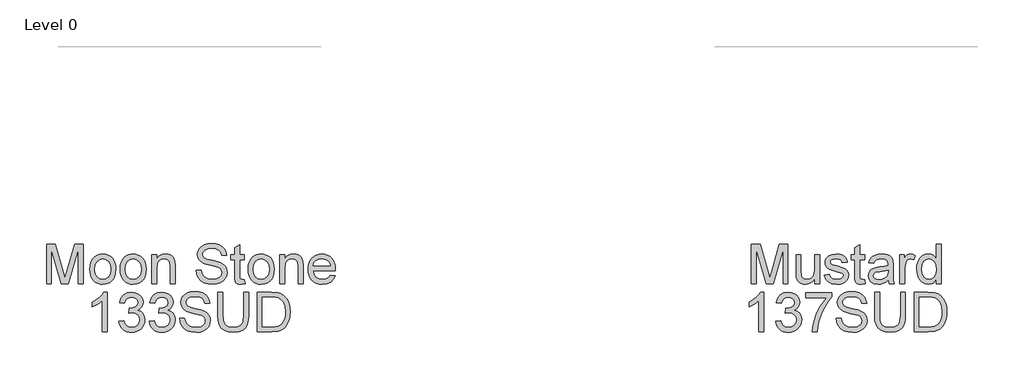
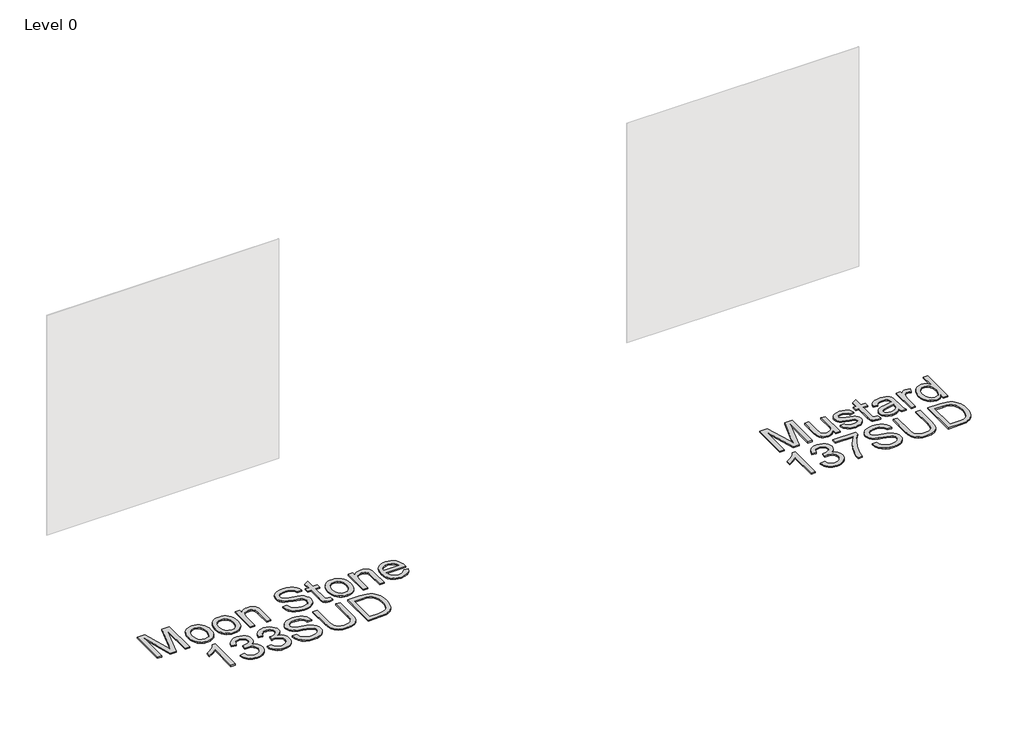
# One storey, part 10 of 37: 2 proxies.
"""IFC4 building model written with IfcOpenShell, lengths in millimetres."""

from ifc_helpers import new_model, si_unit, origin, origin_with_axes, place, context, project, spatial, polyline, outline, extrude, element, save

model = new_model("IFC4")

# Units and contexts
model_context = context("Model", 3, world=origin())
ifc_project = project(units=[si_unit("LENGTHUNIT", "METRE", prefix="MILLI")], contexts=[model_context])

# Site, building, storey
site = spatial("IfcSite", under=ifc_project)
building = spatial("IfcBuilding", under=site)
storey = spatial("IfcBuildingStorey", under=building, Name="Level 0", Elevation=0.0)

# Proxies
placement = place(None, origin())
element("IfcBuildingElementProxy", 1, Name="300mm Arial", ObjectType="300mm Arial", at=placement, inside=storey, context=model_context, shape_type="SweptSolid", body=[
    extrude(outline(polyline([(-10538.4115396, -12002.860494), (-10538.4115396, -11701.4915635), (-10473.5907321, -11701.4915635), (-10411.9337097, -11913.9066275), (-10399.4992983, -11958.2731962), (-10386.0348172, -11910.2278076), (-10325.4078644, -11701.4915635), (-10260.5870569, -11701.4915635), (-10260.5870569, -12002.860494), (-10298.2581732, -12002.860494), (-10298.2581732, -11739.1626798), (-10373.9682878, -12002.860494), (-10425.0303087, -12002.860494), (-10500.7404233, -11739.1626798), (-10500.7404233, -12002.860494), (-10538.4115396, -12002.860494)])), origin_with_axes(), (0.0, 0.0, 1.0), 10.0),
    extrude(outline(polyline([(-10208.789272, -11892.2015898), (-10206.7521254, -11863.5389839), (-10200.6406858, -11838.8403064), (-10190.454953, -11818.1055575), (-10176.1949272, -11801.334737), (-10161.8383323, -11790.6155754), (-10145.9918154, -11782.9590314), (-10128.6553764, -11778.3651049), (-10109.8290153, -11776.8337961), (-10089.0459818, -11778.698498), (-10070.2541096, -11784.2926036), (-10053.4533988, -11793.6161129), (-10038.6438492, -11806.669026), (-10026.5566264, -11823.0098843), (-10017.9228958, -11842.1972296), (-10012.7426575, -11864.2310619), (-10011.0159114, -11889.1113811), (-10014.0693319, -11927.1687735), (-10023.2295936, -11956.1394806), (-10038.229982, -11977.8353213), (-10058.8037825, -11994.0681143), (-10083.2403441, -12004.1940662), (-10109.8290153, -12007.5693835), (-10130.9155514, -12005.7115794), (-10149.8821675, -12000.1381672), (-10166.7288636, -11990.8491468), (-10181.4556397, -11977.8445183), (-10193.4141038, -11961.3450108), (-10201.9558639, -11941.5713536), (-10207.08092, -11918.5235466), (-10208.789272, -11892.2015898)]), holes=[polyline([(-10171.1181557, -11892.1280134), (-10166.758754, -11926.2214773), (-10153.6805491, -11950.5108861), (-10133.9988623, -11965.0514219), (-10109.8290153, -11969.8982672), (-10085.7695328, -11965.0238308), (-10066.1246342, -11950.4005215), (-10053.0464293, -11925.789216), (-10048.6870277, -11890.950791), (-10053.0740205, -11857.8506085), (-10066.2349988, -11833.8922936), (-10085.9074885, -11819.3517577), (-10109.8290153, -11814.5049125), (-10133.9988623, -11819.3333636), (-10153.6805491, -11833.8187172), (-10166.758754, -11858.0529436), (-10171.1181557, -11892.1280134)])]), origin_with_axes(), (0.0, 0.0, 1.0), 10.0),
    extrude(outline(polyline([(-9978.0536846, -11892.2015898), (-9976.016538, -11863.5389839), (-9969.9050984, -11838.8403064), (-9959.7193657, -11818.1055575), (-9945.4593398, -11801.334737), (-9931.102745, -11790.6155754), (-9915.256228, -11782.9590314), (-9897.919789, -11778.3651049), (-9879.0934279, -11776.8337961), (-9858.3103944, -11778.698498), (-9839.5185223, -11784.2926036), (-9822.7178114, -11793.6161129), (-9807.9082618, -11806.669026), (-9795.821039, -11823.0098843), (-9787.1873084, -11842.1972296), (-9782.0070701, -11864.2310619), (-9780.280324, -11889.1113811), (-9783.3337445, -11927.1687735), (-9792.4940062, -11956.1394806), (-9807.4943946, -11977.8353213), (-9828.0681952, -11994.0681143), (-9852.5047567, -12004.1940662), (-9879.0934279, -12007.5693835), (-9900.179964, -12005.7115794), (-9919.1465801, -12000.1381672), (-9935.9932762, -11990.8491468), (-9950.7200524, -11977.8445183), (-9962.6785165, -11961.3450108), (-9971.2202765, -11941.5713536), (-9976.3453326, -11918.5235466), (-9978.0536846, -11892.2015898)]), holes=[polyline([(-9940.3825683, -11892.1280134), (-9936.0231666, -11926.2214773), (-9922.9449617, -11950.5108861), (-9903.263275, -11965.0514219), (-9879.0934279, -11969.8982672), (-9855.0339454, -11965.0238308), (-9835.3890469, -11950.4005215), (-9822.3108419, -11925.789216), (-9817.9514403, -11890.950791), (-9822.3384331, -11857.8506085), (-9835.4994115, -11833.8922936), (-9855.1719012, -11819.3517577), (-9879.0934279, -11814.5049125), (-9903.263275, -11819.3333636), (-9922.9449617, -11833.8187172), (-9936.0231666, -11858.0529436), (-9940.3825683, -11892.1280134)])]), origin_with_axes(), (0.0, 0.0, 1.0), 10.0),
    extrude(outline(polyline([(-9737.9003181, -12002.860494), (-9737.9003181, -11781.5426857), (-9700.2292018, -11781.5426857), (-9700.2292018, -11812.4447733), (-9687.1417999, -11796.8649708), (-9671.4240416, -11785.7365404), (-9653.0759271, -11779.0594822), (-9632.0974563, -11776.8337961), (-9613.5286126, -11778.6272209), (-9596.5232674, -11784.0074951), (-9582.3414165, -11792.303234), (-9572.2430557, -11802.8430532), (-9560.9490785, -11830.5445674), (-9558.9625157, -11866.964885), (-9558.9625157, -12002.860494), (-9596.633632, -12002.860494), (-9596.633632, -11872.0416565), (-9600.9746395, -11838.7115477), (-9606.9803131, -11828.7879309), (-9616.3153187, -11821.0900002), (-9628.2806806, -11816.1511844), (-9642.177423, -11814.5049125), (-9664.2411457, -11818.2021265), (-9683.0491127, -11829.2937687), (-9690.5654017, -11838.3482643), (-9695.9341795, -11850.7228949), (-9700.2292018, -11885.4325611), (-9700.2292018, -12002.860494), (-9737.9003181, -12002.860494)])), origin_with_axes(), (0.0, 0.0, 1.0), 10.0),
    extrude(outline(polyline([(-9398.8602714, -11899.2649241), (-9361.1891551, -11899.2649241), (-9356.8665416, -11920.1698185), (-9349.0490492, -11936.9728286), (-9336.8537611, -11950.308551), (-9319.3977604, -11960.8115819), (-9298.0606047, -11967.6265959), (-9274.2218514, -11969.8982672), (-9253.2341836, -11968.1784189), (-9234.8584779, -11963.0188739), (-9219.9684542, -11954.8518936), (-9209.4378321, -11944.1097394), (-9203.1746411, -11931.7764955), (-9201.0869108, -11918.8362463), (-9202.6504093, -11906.2270909), (-9207.3409047, -11895.3285868), (-9216.8690484, -11886.0303694), (-9232.9454916, -11878.222074), (-9287.796697, -11863.837888), (-9323.8031473, -11854.3189414), (-9346.8417573, -11845.2598472), (-9365.594542, -11832.5863125), (-9378.884279, -11817.2272392), (-9386.802939, -11799.5137211), (-9389.4424923, -11779.7768521), (-9386.1775396, -11757.7131294), (-9376.3826815, -11737.1393289), (-9360.3154353, -11719.7017223), (-9338.2333186, -11707.0465817), (-9311.7274208, -11699.3486509), (-9282.3888317, -11696.782674), (-9250.6038273, -11699.4682126), (-9222.7919485, -11707.5248283), (-9199.9464766, -11720.7869742), (-9183.060693, -11739.0891034), (-9172.3737211, -11761.2907818), (-9168.124684, -11786.2515752), (-9205.7958003, -11786.2515752), (-9212.7119818, -11763.7739853), (-9227.132956, -11747.5503893), (-9249.6657282, -11737.7279401), (-9280.9173037, -11734.4537903), (-9312.9046432, -11737.6911519), (-9334.8488042, -11747.4032365), (-9347.5407331, -11761.695452), (-9351.771376, -11778.6732061), (-9348.7731377, -11793.1493626), (-9339.778423, -11804.7928278), (-9318.5148436, -11815.2038882), (-9278.2685534, -11825.8356779), (-9236.7346761, -11835.9340387), (-9211.6083358, -11844.7448125), (-9190.1332244, -11858.4116286), (-9175.1512301, -11875.2790181), (-9166.3496534, -11895.1630399), (-9163.4157945, -11917.8797531), (-9166.7911118, -11941.102304), (-9176.9170637, -11962.9452975), (-9193.379783, -11981.7440675), (-9215.7654024, -11995.8339479), (-9242.6851674, -12004.6355246), (-9272.7503234, -12007.5693835), (-9309.6580846, -12004.4055984), (-9340.0359404, -11994.9142429), (-9364.2333786, -11979.0585289), (-9382.5998872, -11956.8016682), (-9394.3905051, -11929.6887651), (-9398.8602714, -11899.2649241)])), origin_with_axes(), (0.0, 0.0, 1.0), 10.0),
    extrude(outline(polyline([(-9031.5668874, -11971.4433716), (-9026.8579979, -12003.96414), (-9055.0377587, -12007.5693835), (-9073.1191588, -12006.005885), (-9086.6020339, -12001.3153896), (-9096.1301776, -11994.0865084), (-9102.3473833, -11984.9078526), (-9105.7686858, -11969.1441091), (-9106.90912, -11942.1599648), (-9106.90912, -11819.213802), (-9135.1624572, -11819.213802), (-9135.1624572, -11781.5426857), (-9106.90912, -11781.5426857), (-9106.90912, -11727.758338), (-9069.2380037, -11705.6118419), (-9069.2380037, -11781.5426857), (-9031.5668874, -11781.5426857), (-9031.5668874, -11819.213802), (-9069.2380037, -11819.213802), (-9069.2380037, -11941.0563188), (-9067.2514409, -11960.4804881), (-9060.813506, -11967.3598814), (-9047.9744244, -11969.8982672), (-9031.5668874, -11971.4433716)])), origin_with_axes(), (0.0, 0.0, 1.0), 10.0),
    extrude(outline(polyline([(-9003.3135502, -11892.2015898), (-9001.2764036, -11863.5389839), (-8995.164964, -11838.8403064), (-8984.9792312, -11818.1055575), (-8970.7192054, -11801.334737), (-8956.3626105, -11790.6155754), (-8940.5160936, -11782.9590314), (-8923.1796546, -11778.3651049), (-8904.3532935, -11776.8337961), (-8883.57026, -11778.698498), (-8864.7783878, -11784.2926036), (-8847.977677, -11793.6161129), (-8833.1681274, -11806.669026), (-8821.0809046, -11823.0098843), (-8812.447174, -11842.1972296), (-8807.2669357, -11864.2310619), (-8805.5401896, -11889.1113811), (-8808.5936101, -11927.1687735), (-8817.7538718, -11956.1394806), (-8832.7542602, -11977.8353213), (-8853.3280607, -11994.0681143), (-8877.7646223, -12004.1940662), (-8904.3532935, -12007.5693835), (-8925.4398296, -12005.7115794), (-8944.4064457, -12000.1381672), (-8961.2531418, -11990.8491468), (-8975.9799179, -11977.8445183), (-8987.938382, -11961.3450108), (-8996.4801421, -11941.5713536), (-9001.6051982, -11918.5235466), (-9003.3135502, -11892.2015898)]), holes=[polyline([(-8965.6424339, -11892.1280134), (-8961.2830322, -11926.2214773), (-8948.2048273, -11950.5108861), (-8928.5231406, -11965.0514219), (-8904.3532935, -11969.8982672), (-8880.293811, -11965.0238308), (-8860.6489124, -11950.4005215), (-8847.5707075, -11925.789216), (-8843.2113059, -11890.950791), (-8847.5982987, -11857.8506085), (-8860.759277, -11833.8922936), (-8880.4317667, -11819.3517577), (-8904.3532935, -11814.5049125), (-8928.5231406, -11819.3333636), (-8948.2048273, -11833.8187172), (-8961.2830322, -11858.0529436), (-8965.6424339, -11892.1280134)])]), origin_with_axes(), (0.0, 0.0, 1.0), 10.0),
    extrude(outline(polyline([(-8763.1601837, -12002.860494), (-8763.1601837, -11781.5426857), (-8725.4890674, -11781.5426857), (-8725.4890674, -11812.4447733), (-8712.4016654, -11796.8649708), (-8696.6839072, -11785.7365404), (-8678.3357927, -11779.0594822), (-8657.3573219, -11776.8337961), (-8638.7884782, -11778.6272209), (-8621.783133, -11784.0074951), (-8607.6012821, -11792.303234), (-8597.5029213, -11802.8430532), (-8586.208944, -11830.5445674), (-8584.2223813, -11866.964885), (-8584.2223813, -12002.860494), (-8621.8934976, -12002.860494), (-8621.8934976, -11872.0416565), (-8626.2345051, -11838.7115477), (-8632.2401787, -11828.7879309), (-8641.5751843, -11821.0900002), (-8653.5405462, -11816.1511844), (-8667.4372886, -11814.5049125), (-8689.5010112, -11818.2021265), (-8708.3089782, -11829.2937687), (-8715.8252673, -11838.3482643), (-8721.1940451, -11850.7228949), (-8725.4890674, -11885.4325611), (-8725.4890674, -12002.860494), (-8763.1601837, -12002.860494)])), origin_with_axes(), (0.0, 0.0, 1.0), 10.0),
    extrude(outline(polyline([(-8377.4727, -11936.9360404), (-8340.5373477, -11941.64493), (-8353.8454788, -11969.4752029), (-8375.081467, -11990.2789297), (-8403.7670656, -12003.2467701), (-8439.424028, -12007.5693835), (-8462.7983302, -12005.7046817), (-8483.6250497, -12000.1105761), (-8501.9041863, -11990.7870668), (-8517.6357401, -11977.7341537), (-8530.2862822, -11961.3151204), (-8539.3223838, -11941.8932503), (-8544.7440447, -11919.4685435), (-8546.551265, -11894.0409998), (-8544.7256506, -11867.7512327), (-8539.2488074, -11844.5792656), (-8530.1207354, -11824.5250983), (-8517.3414345, -11807.5887309), (-8501.6512674, -11794.133447), (-8483.7905966, -11784.5225298), (-8463.7594219, -11778.7559796), (-8441.5577435, -11776.8337961), (-8420.0711358, -11778.751381), (-8400.6400686, -11784.5041357), (-8383.2645421, -11794.0920602), (-8367.9445563, -11807.5151545), (-8355.4388677, -11824.4147337), (-8346.506233, -11844.4321128), (-8341.1466522, -11867.5672917), (-8339.3601253, -11893.8202706), (-8339.5808545, -11903.9738137), (-8508.8801487, -11903.9738137), (-8502.3594403, -11932.1719686), (-8487.2118991, -11952.902119), (-8465.3505116, -11965.6492302), (-8438.688264, -11969.8982672), (-8418.6386952, -11967.9300985), (-8401.7529117, -11962.0255925), (-8388.0309132, -11951.8168672), (-8377.4727, -11936.9360404)]), holes=[polyline([(-8508.8801487, -11866.3026974), (-8377.0312416, -11866.3026974), (-8382.1264072, -11846.4002814), (-8392.1144034, -11832.1632482), (-8414.0769585, -11818.9194964), (-8441.7048963, -11814.5049125), (-8467.0979511, -11818.0273826), (-8488.0948159, -11828.5947929), (-8502.6905341, -11845.0667092), (-8508.8801487, -11866.3026974)])]), origin_with_axes(), (0.0, 0.0, 1.0), 10.0),
    extrude(outline(polyline([(-10076.9403649, -12368.7849475), (-10114.6114812, -12368.7849475), (-10114.6114812, -12133.9290818), (-10150.2960347, -12159.3497277), (-10189.9537138, -12178.3692268), (-10189.9537138, -12142.7582497), (-10160.3668044, -12126.6634124), (-10134.7346263, -12107.5151545), (-10114.5287078, -12087.1528861), (-10101.2205766, -12067.4160171), (-10076.9403649, -12067.4160171), (-10076.9403649, -12368.7849475)])), origin_with_axes(), (0.0, 0.0, 1.0), 10.0),
    extrude(outline(polyline([(-9987.4714637, -12288.7338254), (-9949.8003474, -12284.0249358), (-9941.3666526, -12307.6981422), (-9929.0150146, -12323.6826149), (-9912.1384281, -12332.7876943), (-9890.1298877, -12335.8227207), (-9864.3045717, -12331.6472601), (-9844.3653675, -12319.1208782), (-9831.6182564, -12300.4324728), (-9827.3692194, -12277.7709419), (-9831.5814682, -12256.2590422), (-9844.2182147, -12238.8122386), (-9863.3480785, -12227.2515469), (-9887.039679, -12223.397983), (-9913.4536062, -12227.5182614), (-9909.2597515, -12189.8471451), (-9903.2264868, -12190.2886035), (-9880.6569264, -12187.5846708), (-9860.4785989, -12179.4728728), (-9846.2415657, -12165.7508744), (-9841.495888, -12146.2163404), (-9844.9355846, -12129.9467592), (-9855.2546746, -12116.7489926), (-9871.000024, -12108.0025982), (-9890.7184989, -12105.0871334), (-9910.4737621, -12108.0301893), (-9926.6237817, -12116.8593572), (-9938.4143996, -12131.574637), (-9945.0914578, -12152.1760288), (-9982.7625741, -12147.4671392), (-9971.670932, -12113.6403898), (-9951.9340629, -12088.3852908), (-9924.9315245, -12072.6583355), (-9892.0428741, -12067.4160171), (-9868.3604707, -12070.0003881), (-9846.6094477, -12077.7535011), (-9828.2705303, -12089.9855775), (-9814.8244433, -12106.0068384), (-9806.5746896, -12124.4653175), (-9803.8247717, -12144.0090485), (-9806.4367338, -12162.2192072), (-9814.2726203, -12178.7371088), (-9827.2220666, -12192.8085951), (-9845.1747079, -12203.6795081), (-9821.593472, -12213.2076518), (-9804.1190773, -12229.4312477), (-9793.3033466, -12251.4673793), (-9789.6981031, -12278.4331295), (-9791.5007248, -12297.5445992), (-9796.9085902, -12315.1477526), (-9805.921699, -12331.2425899), (-9818.5400515, -12345.829111), (-9833.9129204, -12357.9324287), (-9851.1895786, -12366.5776555), (-9870.3700261, -12371.7647917), (-9891.4542629, -12373.4938371), (-9910.5105503, -12372.0177105), (-9927.8745805, -12367.589331), (-9943.5463534, -12360.2086985), (-9957.5258693, -12349.875813), (-9969.2475093, -12337.1976797), (-9978.1456551, -12322.781304), (-9984.2203065, -12306.6266859), (-9987.4714637, -12288.7338254)])), origin_with_axes(), (0.0, 0.0, 1.0), 10.0),
    extrude(outline(polyline([(-9756.7358763, -12288.7338254), (-9719.06476, -12284.0249358), (-9710.6310652, -12307.6981422), (-9698.2794273, -12323.6826149), (-9681.4028407, -12332.7876943), (-9659.3943004, -12335.8227207), (-9633.5689843, -12331.6472601), (-9613.6297802, -12319.1208782), (-9600.882669, -12300.4324728), (-9596.633632, -12277.7709419), (-9600.8458808, -12256.2590422), (-9613.4826274, -12238.8122386), (-9632.6124911, -12227.2515469), (-9656.3040916, -12223.397983), (-9682.7180189, -12227.5182614), (-9678.5241641, -12189.8471451), (-9672.4908994, -12190.2886035), (-9649.921339, -12187.5846708), (-9629.7430116, -12179.4728728), (-9615.5059783, -12165.7508744), (-9610.7603006, -12146.2163404), (-9614.1999973, -12129.9467592), (-9624.5190872, -12116.7489926), (-9640.2644366, -12108.0025982), (-9659.9829116, -12105.0871334), (-9679.7381747, -12108.0301893), (-9695.8881943, -12116.8593572), (-9707.6788122, -12131.574637), (-9714.3558705, -12152.1760288), (-9752.0269868, -12147.4671392), (-9740.9353446, -12113.6403898), (-9721.1984756, -12088.3852908), (-9694.1959371, -12072.6583355), (-9661.3072867, -12067.4160171), (-9637.6248833, -12070.0003881), (-9615.8738603, -12077.7535011), (-9597.5349429, -12089.9855775), (-9584.088856, -12106.0068384), (-9575.8391022, -12124.4653175), (-9573.0891843, -12144.0090485), (-9575.7011465, -12162.2192072), (-9583.537033, -12178.7371088), (-9596.4864792, -12192.8085951), (-9614.4391206, -12203.6795081), (-9590.8578847, -12213.2076518), (-9573.3834899, -12229.4312477), (-9562.5677592, -12251.4673793), (-9558.9625157, -12278.4331295), (-9560.7651375, -12297.5445992), (-9566.1730028, -12315.1477526), (-9575.1861117, -12331.2425899), (-9587.8044641, -12345.829111), (-9603.177333, -12357.9324287), (-9620.4539912, -12366.5776555), (-9639.6344387, -12371.7647917), (-9660.7186756, -12373.4938371), (-9679.7749629, -12372.0177105), (-9697.1389931, -12367.589331), (-9712.8107661, -12360.2086985), (-9726.7902819, -12349.875813), (-9738.511922, -12337.1976797), (-9747.4100677, -12322.781304), (-9753.4847192, -12306.6266859), (-9756.7358763, -12288.7338254)])), origin_with_axes(), (0.0, 0.0, 1.0), 10.0),
    extrude(outline(polyline([(-9526.0002889, -12265.1893777), (-9488.3291726, -12265.1893777), (-9484.0065592, -12286.0942721), (-9476.1890668, -12302.8972822), (-9463.9937786, -12316.2330045), (-9446.537778, -12326.7360355), (-9425.2006222, -12333.5510494), (-9401.361869, -12335.8227207), (-9380.3742011, -12334.1028724), (-9361.9984955, -12328.9433274), (-9347.1084717, -12320.7763471), (-9336.5778496, -12310.0341929), (-9330.3146586, -12297.700949), (-9328.2269283, -12284.7606998), (-9329.7904268, -12272.1515444), (-9334.4809222, -12261.2530403), (-9344.0090659, -12251.9548229), (-9360.0855091, -12244.1465276), (-9414.9367146, -12229.7623415), (-9450.9431649, -12220.2433949), (-9473.9817748, -12211.1843008), (-9492.7345595, -12198.510766), (-9506.0242966, -12183.1516928), (-9513.9429565, -12165.4381747), (-9516.5825098, -12145.7013056), (-9513.3175571, -12123.637583), (-9503.522699, -12103.0637824), (-9487.4554529, -12085.6261758), (-9465.3733361, -12072.9710352), (-9438.8674384, -12065.2731044), (-9409.5288492, -12062.7071275), (-9377.7438449, -12065.3926661), (-9349.931966, -12073.4492818), (-9327.0864941, -12086.7114277), (-9310.2007105, -12105.013557), (-9299.5137386, -12127.2152354), (-9295.2647015, -12152.1760288), (-9332.9358179, -12152.1760288), (-9339.8519994, -12129.6984389), (-9354.2729736, -12113.4748429), (-9376.8057458, -12103.6523936), (-9408.0573213, -12100.3782438), (-9440.0446607, -12103.6156054), (-9461.9888218, -12113.3276901), (-9474.6807506, -12127.6199056), (-9478.9113935, -12144.5976597), (-9475.9131553, -12159.0738162), (-9466.9184405, -12170.7172813), (-9445.6548612, -12181.1283418), (-9405.4085709, -12191.7601314), (-9363.8746936, -12201.8584922), (-9338.7483534, -12210.669266), (-9317.2732419, -12224.3360821), (-9302.2912477, -12241.2034716), (-9293.4896709, -12261.0874934), (-9290.555812, -12283.8042066), (-9293.9311293, -12307.0267576), (-9304.0570812, -12328.869751), (-9320.5198005, -12347.668521), (-9342.9054199, -12361.7584014), (-9369.8251849, -12370.5599781), (-9399.890341, -12373.4938371), (-9436.7981021, -12370.3300519), (-9467.1759579, -12360.8386964), (-9491.3733961, -12344.9829824), (-9509.7399047, -12322.7261217), (-9521.5305227, -12295.6132187), (-9526.0002889, -12265.1893777)])), origin_with_axes(), (0.0, 0.0, 1.0), 10.0),
    extrude(outline(polyline([(-9036.2757769, -12067.4160171), (-8998.6046606, -12067.4160171), (-8998.6046606, -12241.277048), (-9001.1614405, -12281.9923878), (-9008.8317801, -12313.3451308), (-9023.1607838, -12337.533372), (-9045.693556, -12356.7552063), (-9076.485279, -12369.3091794), (-9115.5911351, -12373.4938371), (-9153.8416655, -12369.8518053), (-9184.4218564, -12358.92571), (-9207.3409047, -12341.0926303), (-9222.6080075, -12316.7296452), (-9231.188855, -12284.052527), (-9234.0491375, -12241.277048), (-9234.0491375, -12067.4160171), (-9196.3780212, -12067.4160171), (-9196.3780212, -12239.9526728), (-9194.5202172, -12273.8070134), (-9188.9468049, -12297.3790523), (-9178.8484442, -12313.7038158), (-9163.4157945, -12325.8163305), (-9143.2926493, -12333.3211232), (-9119.1228023, -12335.8227207), (-9080.8078925, -12330.8747079), (-9066.4650932, -12324.6896919), (-9055.3320643, -12316.0306694), (-9046.9949386, -12303.8537754), (-9041.0398488, -12287.1151446), (-9036.2757769, -12239.9526728), (-9036.2757769, -12067.4160171)])), origin_with_axes(), (0.0, 0.0, 1.0), 10.0),
    extrude(outline(polyline([(-8932.6802071, -12368.7849475), (-8932.6802071, -12067.4160171), (-8828.7167553, -12067.4160171), (-8774.9324076, -12071.7570246), (-8750.9097133, -12080.12634), (-8730.6394153, -12093.3149095), (-8709.7989003, -12116.270746), (-8694.9548618, -12144.8183889), (-8686.0705116, -12178.406015), (-8683.1090616, -12216.4818015), (-8685.1140184, -12248.8278259), (-8691.1288891, -12277.2926953), (-8700.2891507, -12301.5269217), (-8711.7302808, -12321.1810173), (-8724.9004562, -12336.6964405), (-8739.247854, -12348.5146496), (-8755.7197704, -12357.2794381), (-8775.2635014, -12363.6345996), (-8823.7135601, -12368.7849475), (-8932.6802071, -12368.7849475)]), holes=[polyline([(-8895.0090908, -12331.1138312), (-8828.3488733, -12331.1138312), (-8800.7761177, -12329.7526678), (-8779.8620263, -12325.6691777), (-8764.0798887, -12319.1024841), (-8751.9029947, -12310.2917103), (-8738.8155927, -12293.9853408), (-8728.9839464, -12272.8781114), (-8722.83112, -12246.8780514), (-8720.7801779, -12215.8931903), (-8724.7992887, -12174.8375597), (-8736.8566211, -12144.5240833), (-8754.6713067, -12123.7019623), (-8775.9624772, -12111.1203981), (-8797.6307267, -12106.5954496), (-8829.3789429, -12105.0871334), (-8895.0090908, -12105.0871334), (-8895.0090908, -12331.1138312)])]), origin_with_axes(), (0.0, 0.0, 1.0), 10.0),
])
element("IfcBuildingElementProxy", 2, Name="300mm Arial", ObjectType="300mm Arial", at=placement, inside=storey, context=model_context, shape_type="SweptSolid", body=[
    extrude(outline(polyline([(-5171.1181557, -12002.860494), (-5171.1181557, -11701.4915635), (-5106.2973481, -11701.4915635), (-5044.6403257, -11913.9066275), (-5032.2059143, -11958.2731962), (-5018.7414333, -11910.2278076), (-4958.1144805, -11701.4915635), (-4893.2936729, -11701.4915635), (-4893.2936729, -12002.860494), (-4930.9647892, -12002.860494), (-4930.9647892, -11739.1626798), (-5006.6749038, -12002.860494), (-5057.7369247, -12002.860494), (-5133.4470394, -11739.1626798), (-5133.4470394, -12002.860494), (-5171.1181557, -12002.860494)])), origin_with_axes(), (0.0, 0.0, 1.0), 10.0),
    extrude(outline(polyline([(-4690.8114228, -12002.860494), (-4690.8114228, -11964.8214957), (-4704.4414507, -11983.5236966), (-4720.3155588, -11996.8824116), (-4738.433747, -12004.8976405), (-4758.7960155, -12007.5693835), (-4777.14413, -12005.6931853), (-4794.2230516, -12000.0645908), (-4808.5520553, -11991.6033049), (-4818.6504161, -11981.2290327), (-4829.8708169, -11953.4907302), (-4832.0781089, -11918.4683643), (-4832.0781089, -11781.5426857), (-4794.4069926, -11781.5426857), (-4794.4069926, -11900.7364521), (-4792.1261242, -11939.1433324), (-4786.6354855, -11951.9548229), (-4777.2269034, -11961.6944987), (-4764.5257775, -11967.8473251), (-4749.1575072, -11969.8982672), (-4732.9063201, -11967.8013398), (-4717.7035966, -11961.5105577), (-4705.1680176, -11951.605335), (-4696.9182639, -11938.6650858), (-4692.338133, -11920.9423707), (-4690.8114228, -11896.6897502), (-4690.8114228, -11781.5426857), (-4653.1403065, -11781.5426857), (-4653.1403065, -12002.860494), (-4690.8114228, -12002.860494)])), origin_with_axes(), (0.0, 0.0, 1.0), 10.0),
    extrude(outline(polyline([(-4615.4691901, -11936.9360404), (-4577.7980738, -11932.2271509), (-4571.8567796, -11948.3403823), (-4560.3604673, -11960.1861825), (-4543.2355604, -11967.470246), (-4520.4084826, -11969.8982672), (-4497.8573163, -11967.6725811), (-4482.0016023, -11960.9955229), (-4472.6206114, -11951.3202265), (-4469.4936145, -11940.0998256), (-4472.6390055, -11930.4981055), (-4482.0751787, -11923.1772538), (-4520.849941, -11912.4350996), (-4577.5773446, -11894.0042116), (-4591.9339395, -11884.7427824), (-4602.3358029, -11872.4831149), (-4608.6541762, -11858.0069584), (-4610.7603006, -11842.0960621), (-4609.0680434, -11827.5003439), (-4603.9912719, -11814.0266659), (-4595.9898385, -11802.2084568), (-4585.5235957, -11792.5791455), (-4561.5744779, -11781.4323211), (-4529.1640741, -11776.8337961), (-4504.6447391, -11778.6824032), (-4483.3259775, -11784.2282242), (-4466.1826765, -11792.9286334), (-4454.1897235, -11804.2410048), (-4446.2434724, -11819.0022698), (-4441.2402772, -11838.0493601), (-4478.9113935, -11842.7582497), (-4483.6662683, -11830.9032524), (-4493.0748504, -11821.972917), (-4507.2291101, -11816.3719136), (-4526.2210181, -11814.5049125), (-4547.8524794, -11816.2891401), (-4562.2734536, -11821.6418232), (-4570.3852516, -11829.3673451), (-4573.0891843, -11838.2700893), (-4568.601024, -11849.2329728), (-4554.5479317, -11857.5471059), (-4522.1007398, -11865.5669334), (-4466.8080759, -11883.2988455), (-4452.2031607, -11891.7785255), (-4441.1299126, -11903.3852025), (-4434.1493518, -11918.1556646), (-4431.8224982, -11936.1267001), (-4434.554022, -11954.7047408), (-4442.7485934, -11972.1791356), (-4456.0935128, -11987.1795239), (-4474.2760804, -11998.3355454), (-4496.2386355, -12005.260924), (-4520.9235174, -12007.5693835), (-4558.9073334, -12003.1180114), (-4586.6272417, -11989.763895), (-4605.1317061, -11967.654187), (-4615.4691901, -11936.9360404)])), origin_with_axes(), (0.0, 0.0, 1.0), 10.0),
    extrude(outline(polyline([(-4309.3913702, -11971.4433716), (-4304.6824806, -12003.96414), (-4332.8622415, -12007.5693835), (-4350.9436415, -12006.005885), (-4364.4265166, -12001.3153896), (-4373.9546603, -11994.0865084), (-4380.171866, -11984.9078526), (-4383.5931686, -11969.1441091), (-4384.7336028, -11942.1599648), (-4384.7336028, -11819.213802), (-4412.98694, -11819.213802), (-4412.98694, -11781.5426857), (-4384.7336028, -11781.5426857), (-4384.7336028, -11727.758338), (-4347.0624865, -11705.6118419), (-4347.0624865, -11781.5426857), (-4309.3913702, -11781.5426857), (-4309.3913702, -11819.213802), (-4347.0624865, -11819.213802), (-4347.0624865, -11941.0563188), (-4345.0759237, -11960.4804881), (-4338.6379888, -11967.3598814), (-4325.7989071, -11969.8982672), (-4309.3913702, -11971.4433716)])), origin_with_axes(), (0.0, 0.0, 1.0), 10.0),
    extrude(outline(polyline([(-4130.4535677, -11974.6071568), (-4148.4521943, -11990.0398064), (-4166.9842498, -12000.1381672), (-4186.4727985, -12005.7115794), (-4207.3409047, -12007.5693835), (-4238.8224064, -12003.0996173), (-4262.0449574, -11989.6903186), (-4276.364764, -11969.3280501), (-4281.1380329, -11943.9993748), (-4279.3354112, -11928.3827841), (-4273.9275458, -11914.2009331), (-4265.5858216, -11902.0608273), (-4254.9816231, -11892.5694718), (-4228.604484, -11880.2086368), (-4196.0101392, -11874.5432541), (-4157.4928944, -11868.5835657), (-4130.6742969, -11861.5938078), (-4130.4535677, -11853.2060983), (-4133.0471358, -11836.3938912), (-4140.82784, -11825.3942195), (-4158.2286583, -11817.2272392), (-4182.4720818, -11814.5049125), (-4204.9128835, -11816.3167313), (-4220.5846565, -11821.7521878), (-4231.2716285, -11831.8045633), (-4238.7580271, -11847.4671392), (-4276.4291434, -11842.7582497), (-4269.8900409, -11822.156858), (-4260.131971, -11805.9700502), (-4246.2444257, -11793.590821), (-4227.316897, -11784.4121652), (-4204.1679225, -11778.7283884), (-4177.6160395, -11776.8337961), (-4152.1494084, -11778.5076592), (-4131.9618839, -11783.5292485), (-4116.7407663, -11791.0800264), (-4106.173356, -11800.3414556), (-4099.165204, -11811.7917827), (-4094.6218614, -11825.9092543), (-4092.7824514, -11858.8714811), (-4092.7824514, -11905.7396473), (-4090.869465, -11971.1858542), (-4083.3646723, -12002.860494), (-4121.0357886, -12002.860494), (-4130.4535677, -11974.6071568)]), holes=[polyline([(-4130.4535677, -11899.2649241), (-4191.2276733, -11910.8164188), (-4223.6380771, -11916.9232599), (-4238.3165687, -11926.8560738), (-4243.4669166, -11941.3506244), (-4240.6618164, -11952.5526311), (-4232.2465158, -11961.7312869), (-4218.4049557, -11967.8565221), (-4199.3210772, -11969.8982672), (-4179.0875675, -11967.64499), (-4161.2085025, -11960.8851583), (-4146.7139519, -11950.9247533), (-4136.6339852, -11939.069756), (-4132.164219, -11926.8560738), (-4130.6742969, -11909.933502), (-4130.4535677, -11899.2649241)])]), origin_with_axes(), (0.0, 0.0, 1.0), 10.0),
    extrude(outline(polyline([(-4040.9846665, -12002.860494), (-4040.9846665, -11781.5426857), (-4008.0224397, -11781.5426857), (-4008.0224397, -11814.2841833), (-3995.8455457, -11795.3014723), (-3984.6251448, -11784.1178596), (-3973.3679558, -11778.654812), (-3961.0806971, -11776.8337961), (-3942.3187154, -11779.7400639), (-3923.262428, -11788.4588672), (-3935.8439923, -11822.2304343), (-3949.0877441, -11816.4362929), (-3962.3314959, -11814.5049125), (-3973.5794879, -11816.3627165), (-3983.6318634, -11821.9361288), (-3991.7528585, -11830.8020848), (-3997.2067091, -11842.5375205), (-4001.7868399, -11863.5803706), (-4003.3135502, -11886.5362071), (-4003.3135502, -12002.860494), (-4040.9846665, -12002.860494)])), origin_with_axes(), (0.0, 0.0, 1.0), 10.0),
    extrude(outline(polyline([(-3763.1601837, -12002.860494), (-3763.1601837, -11967.3230932), (-3774.4311683, -11984.9308452), (-3788.0841889, -11997.507811), (-3804.1192454, -12005.0539904), (-3822.5363377, -12007.5693835), (-3846.8901258, -12003.9273518), (-3869.1837747, -11993.0012565), (-3888.0561211, -11975.5544529), (-3902.1460015, -11952.350296), (-3910.9199871, -11924.3268851), (-3913.8446489, -11892.422319), (-3911.1499133, -11860.9132261), (-3903.0657065, -11832.4575538), (-3889.6012255, -11808.6739828), (-3870.7656673, -11791.181194), (-3847.9845748, -11780.4206456), (-3822.6834905, -11776.8337961), (-3804.2526026, -11779.3997731), (-3787.9554302, -11787.0977038), (-3774.1414613, -11798.8975188), (-3763.1601837, -11813.7691485), (-3763.1601837, -11701.4915635), (-3725.4890674, -11701.4915635), (-3725.4890674, -12002.860494), (-3763.1601837, -12002.860494)]), holes=[polyline([(-3876.1735326, -11892.2751662), (-3871.9244956, -11926.350236), (-3859.1773845, -11950.5844625), (-3840.654526, -11965.069816), (-3819.078247, -11969.8982672), (-3797.511165, -11965.2905452), (-3779.4573561, -11951.4673793), (-3767.2344768, -11928.1712519), (-3763.1601837, -11895.1446458), (-3767.3080532, -11859.037028), (-3779.7516617, -11834.0026582), (-3798.2653231, -11819.3793489), (-3820.6233514, -11814.5049125), (-3842.4203596, -11819.1862108), (-3860.2810304, -11833.230106), (-3872.2004071, -11857.3539678), (-3876.1735326, -11892.2751662)])]), origin_with_axes(), (0.0, 0.0, 1.0), 10.0),
    extrude(outline(polyline([(-5076.9403649, -12368.7849475), (-5114.6114812, -12368.7849475), (-5114.6114812, -12133.9290818), (-5150.2960347, -12159.3497277), (-5189.9537138, -12178.3692268), (-5189.9537138, -12142.7582497), (-5160.3668044, -12126.6634124), (-5134.7346263, -12107.5151545), (-5114.5287078, -12087.1528861), (-5101.2205766, -12067.4160171), (-5076.9403649, -12067.4160171), (-5076.9403649, -12368.7849475)])), origin_with_axes(), (0.0, 0.0, 1.0), 10.0),
    extrude(outline(polyline([(-4987.4714637, -12288.7338254), (-4949.8003474, -12284.0249358), (-4941.3666526, -12307.6981422), (-4929.0150146, -12323.6826149), (-4912.1384281, -12332.7876943), (-4890.1298877, -12335.8227207), (-4864.3045717, -12331.6472601), (-4844.3653675, -12319.1208782), (-4831.6182564, -12300.4324728), (-4827.3692194, -12277.7709419), (-4831.5814682, -12256.2590422), (-4844.2182147, -12238.8122386), (-4863.3480785, -12227.2515469), (-4887.039679, -12223.397983), (-4913.4536062, -12227.5182614), (-4909.2597515, -12189.8471451), (-4903.2264868, -12190.2886035), (-4880.6569264, -12187.5846708), (-4860.4785989, -12179.4728728), (-4846.2415657, -12165.7508744), (-4841.495888, -12146.2163404), (-4844.9355846, -12129.9467592), (-4855.2546746, -12116.7489926), (-4871.000024, -12108.0025982), (-4890.7184989, -12105.0871334), (-4910.4737621, -12108.0301893), (-4926.6237817, -12116.8593572), (-4938.4143996, -12131.574637), (-4945.0914578, -12152.1760288), (-4982.7625741, -12147.4671392), (-4971.670932, -12113.6403898), (-4951.9340629, -12088.3852908), (-4924.9315245, -12072.6583355), (-4892.0428741, -12067.4160171), (-4868.3604707, -12070.0003881), (-4846.6094477, -12077.7535011), (-4828.2705303, -12089.9855775), (-4814.8244433, -12106.0068384), (-4806.5746896, -12124.4653175), (-4803.8247717, -12144.0090485), (-4806.4367338, -12162.2192072), (-4814.2726203, -12178.7371088), (-4827.2220666, -12192.8085951), (-4845.1747079, -12203.6795081), (-4821.593472, -12213.2076518), (-4804.1190773, -12229.4312477), (-4793.3033466, -12251.4673793), (-4789.6981031, -12278.4331295), (-4791.5007248, -12297.5445992), (-4796.9085902, -12315.1477526), (-4805.921699, -12331.2425899), (-4818.5400515, -12345.829111), (-4833.9129204, -12357.9324287), (-4851.1895786, -12366.5776555), (-4870.3700261, -12371.7647917), (-4891.4542629, -12373.4938371), (-4910.5105503, -12372.0177105), (-4927.8745805, -12367.589331), (-4943.5463534, -12360.2086985), (-4957.5258693, -12349.875813), (-4969.2475093, -12337.1976797), (-4978.1456551, -12322.781304), (-4984.2203065, -12306.6266859), (-4987.4714637, -12288.7338254)])), origin_with_axes(), (0.0, 0.0, 1.0), 10.0),
    extrude(outline(polyline([(-4756.7358763, -12109.7960229), (-4756.7358763, -12072.1249066), (-4558.9625157, -12072.1249066), (-4558.9625157, -12102.5855358), (-4587.1514736, -12138.2608923), (-4615.06452, -12183.6299393), (-4639.6850225, -12234.5540045), (-4657.9963488, -12286.8944154), (-4666.9726695, -12326.0554538), (-4671.9758646, -12368.7849475), (-4709.6469809, -12368.7849475), (-4705.5726878, -12329.9550029), (-4694.6741837, -12283.8042066), (-4677.2457742, -12234.8850983), (-4653.5817648, -12187.7502177), (-4625.953827, -12145.1402856), (-4596.633632, -12109.7960229), (-4756.7358763, -12109.7960229)])), origin_with_axes(), (0.0, 0.0, 1.0), 10.0),
    extrude(outline(polyline([(-4526.0002889, -12265.1893777), (-4488.3291726, -12265.1893777), (-4484.0065592, -12286.0942721), (-4476.1890668, -12302.8972822), (-4463.9937786, -12316.2330045), (-4446.537778, -12326.7360355), (-4425.2006222, -12333.5510494), (-4401.361869, -12335.8227207), (-4380.3742011, -12334.1028724), (-4361.9984955, -12328.9433274), (-4347.1084717, -12320.7763471), (-4336.5778496, -12310.0341929), (-4330.3146586, -12297.700949), (-4328.2269283, -12284.7606998), (-4329.7904268, -12272.1515444), (-4334.4809222, -12261.2530403), (-4344.0090659, -12251.9548229), (-4360.0855091, -12244.1465276), (-4414.9367146, -12229.7623415), (-4450.9431649, -12220.2433949), (-4473.9817748, -12211.1843008), (-4492.7345595, -12198.510766), (-4506.0242966, -12183.1516928), (-4513.9429565, -12165.4381747), (-4516.5825098, -12145.7013056), (-4513.3175571, -12123.637583), (-4503.522699, -12103.0637824), (-4487.4554529, -12085.6261758), (-4465.3733361, -12072.9710352), (-4438.8674384, -12065.2731044), (-4409.5288492, -12062.7071275), (-4377.7438449, -12065.3926661), (-4349.931966, -12073.4492818), (-4327.0864941, -12086.7114277), (-4310.2007105, -12105.013557), (-4299.5137386, -12127.2152354), (-4295.2647015, -12152.1760288), (-4332.9358179, -12152.1760288), (-4339.8519994, -12129.6984389), (-4354.2729736, -12113.4748429), (-4376.8057458, -12103.6523936), (-4408.0573213, -12100.3782438), (-4440.0446607, -12103.6156054), (-4461.9888218, -12113.3276901), (-4474.6807506, -12127.6199056), (-4478.9113935, -12144.5976597), (-4475.9131553, -12159.0738162), (-4466.9184405, -12170.7172813), (-4445.6548612, -12181.1283418), (-4405.4085709, -12191.7601314), (-4363.8746936, -12201.8584922), (-4338.7483534, -12210.669266), (-4317.2732419, -12224.3360821), (-4302.2912477, -12241.2034716), (-4293.4896709, -12261.0874934), (-4290.555812, -12283.8042066), (-4293.9311293, -12307.0267576), (-4304.0570812, -12328.869751), (-4320.5198005, -12347.668521), (-4342.9054199, -12361.7584014), (-4369.8251849, -12370.5599781), (-4399.890341, -12373.4938371), (-4436.7981021, -12370.3300519), (-4467.1759579, -12360.8386964), (-4491.3733961, -12344.9829824), (-4509.7399047, -12322.7261217), (-4521.5305227, -12295.6132187), (-4526.0002889, -12265.1893777)])), origin_with_axes(), (0.0, 0.0, 1.0), 10.0),
    extrude(outline(polyline([(-4036.2757769, -12067.4160171), (-3998.6046606, -12067.4160171), (-3998.6046606, -12241.277048), (-4001.1614405, -12281.9923878), (-4008.8317801, -12313.3451308), (-4023.1607838, -12337.533372), (-4045.693556, -12356.7552063), (-4076.485279, -12369.3091794), (-4115.5911351, -12373.4938371), (-4153.8416655, -12369.8518053), (-4184.4218564, -12358.92571), (-4207.3409047, -12341.0926303), (-4222.6080075, -12316.7296452), (-4231.188855, -12284.052527), (-4234.0491375, -12241.277048), (-4234.0491375, -12067.4160171), (-4196.3780212, -12067.4160171), (-4196.3780212, -12239.9526728), (-4194.5202172, -12273.8070134), (-4188.9468049, -12297.3790523), (-4178.8484442, -12313.7038158), (-4163.4157945, -12325.8163305), (-4143.2926493, -12333.3211232), (-4119.1228023, -12335.8227207), (-4080.8078925, -12330.8747079), (-4066.4650932, -12324.6896919), (-4055.3320643, -12316.0306694), (-4046.9949386, -12303.8537754), (-4041.0398488, -12287.1151446), (-4036.2757769, -12239.9526728), (-4036.2757769, -12067.4160171)])), origin_with_axes(), (0.0, 0.0, 1.0), 10.0),
    extrude(outline(polyline([(-3932.6802071, -12368.7849475), (-3932.6802071, -12067.4160171), (-3828.7167553, -12067.4160171), (-3774.9324076, -12071.7570246), (-3750.9097133, -12080.12634), (-3730.6394153, -12093.3149095), (-3709.7989003, -12116.270746), (-3694.9548618, -12144.8183889), (-3686.0705116, -12178.406015), (-3683.1090616, -12216.4818015), (-3685.1140184, -12248.8278259), (-3691.1288891, -12277.2926953), (-3700.2891507, -12301.5269217), (-3711.7302808, -12321.1810173), (-3724.9004562, -12336.6964405), (-3739.247854, -12348.5146496), (-3755.7197704, -12357.2794381), (-3775.2635014, -12363.6345996), (-3823.7135601, -12368.7849475), (-3932.6802071, -12368.7849475)]), holes=[polyline([(-3895.0090908, -12331.1138312), (-3828.3488733, -12331.1138312), (-3800.7761177, -12329.7526678), (-3779.8620263, -12325.6691777), (-3764.0798887, -12319.1024841), (-3751.9029947, -12310.2917103), (-3738.8155927, -12293.9853408), (-3728.9839464, -12272.8781114), (-3722.83112, -12246.8780514), (-3720.7801779, -12215.8931903), (-3724.7992887, -12174.8375597), (-3736.8566211, -12144.5240833), (-3754.6713067, -12123.7019623), (-3775.9624772, -12111.1203981), (-3797.6307267, -12106.5954496), (-3829.3789429, -12105.0871334), (-3895.0090908, -12105.0871334), (-3895.0090908, -12331.1138312)])]), origin_with_axes(), (0.0, 0.0, 1.0), 10.0),
])

save(model, "model.ifc")
